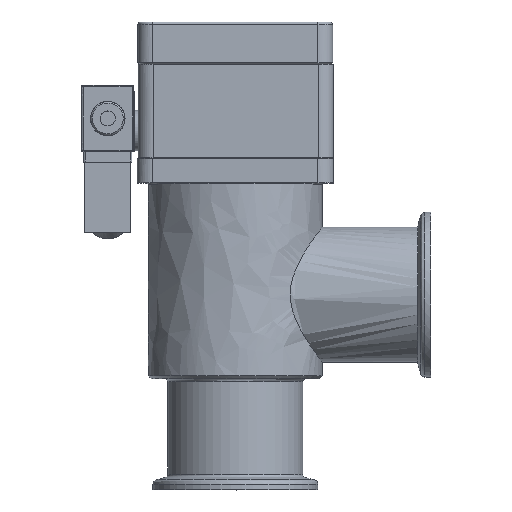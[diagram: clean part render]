
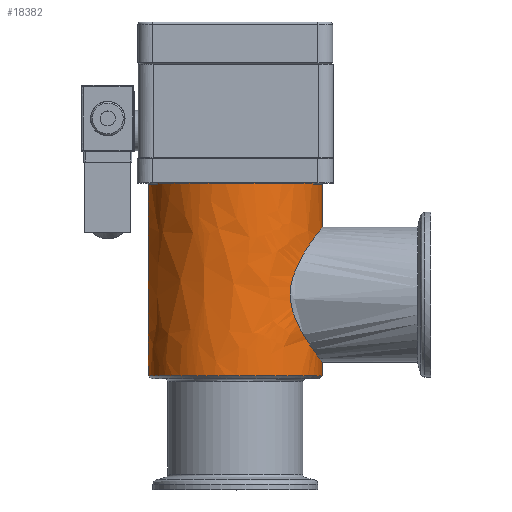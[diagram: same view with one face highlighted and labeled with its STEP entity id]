
A CAD part, top view. The second image highlights one B-rep face of the part: STEP entity #18382.
In plain terms, the highlighted free-form (B-spline) face has degree [2, 1] with [7, 2] control points.
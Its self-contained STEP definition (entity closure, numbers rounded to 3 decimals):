
#17695=CARTESIAN_POINT('V34',(38.,28.95,
   0.0));
#17696=VERTEX_POINT('V34',#17695);
#17704=CARTESIAN_POINT('E59',(38.,28.95,
   0.));
#17705=CARTESIAN_POINT('E59',(38.,28.95,
   50.143));
#17706=CARTESIAN_POINT('E59',(38.,-14.475,
   25.071));
#17707=CARTESIAN_POINT('E59',(38.,-57.9,
   0.));
#17708=CARTESIAN_POINT('E59',(38.,-14.475,
   -25.071));
#17709=CARTESIAN_POINT('E59',(38.,28.95,
   -50.143));
#17710=CARTESIAN_POINT('E59',(38.,28.95,
   0.));
#17718=(BOUNDED_CURVE()B_SPLINE_CURVE(2,(#17704,#17705,#17706,
   #17707,#17708,#17709,#17710),.CIRCULAR_ARC.,.T.,.U.)
   B_SPLINE_CURVE_WITH_KNOTS((3,2,2,3),(2.0,43.393,
   84.786,126.179),.UNSPECIFIED.)CURVE()
   GEOMETRIC_REPRESENTATION_ITEM()RATIONAL_B_SPLINE_CURVE((1.0,
   0.5,1.0,0.5,1.0,0.5,1.0)
   )REPRESENTATION_ITEM('E59'));
#17719=EDGE_CURVE('E59',#17696,#17696,#17718,.T.);
#18256=CARTESIAN_POINT('V17',(102.,28.95,
   0.0));
#18257=VERTEX_POINT('V17',#18256);
#18265=CARTESIAN_POINT('E27',(102.,28.95,
   0.0));
#18266=CARTESIAN_POINT('E27',(102.0,28.95,
   -50.143));
#18267=CARTESIAN_POINT('E27',(102.,
   -14.475,-25.071));
#18268=CARTESIAN_POINT('E27',(102.0,-57.9,
   0.));
#18269=CARTESIAN_POINT('E27',(102.,
   -14.475,25.071));
#18270=CARTESIAN_POINT('E27',(102.0,28.95,
   50.143));
#18271=CARTESIAN_POINT('E27',(102.,28.95,
   0.0));
#18279=(BOUNDED_CURVE()B_SPLINE_CURVE(2,(#18265,#18266,#18267,
   #18268,#18269,#18270,#18271),.CIRCULAR_ARC.,.T.,.U.)
   B_SPLINE_CURVE_WITH_KNOTS((3,2,2,3),(0.0,355.788,
   711.577,1067.365),.UNSPECIFIED.)CURVE()
   GEOMETRIC_REPRESENTATION_ITEM()RATIONAL_B_SPLINE_CURVE((1.0,
   0.5,1.0,0.5,1.0,0.5,1.0)
   )REPRESENTATION_ITEM('E27'));
#18280=EDGE_CURVE('E27',#18257,#18257,#18279,.T.);
#18285=CARTESIAN_POINT('F27',(37.,28.95,
   0.0));
#18286=CARTESIAN_POINT('F27',(37.,28.95,
   50.143));
#18287=CARTESIAN_POINT('F27',(37.,-14.475,
   25.071));
#18288=CARTESIAN_POINT('F27',(37.,-57.9,
   0.));
#18289=CARTESIAN_POINT('F27',(37.,-14.475,
   -25.071));
#18290=CARTESIAN_POINT('F27',(37.,28.95,
   -50.143));
#18291=CARTESIAN_POINT('F27',(37.,28.95,
   0.0));
#18292=CARTESIAN_POINT('F27',(102.,28.95,
   0.0));
#18293=CARTESIAN_POINT('F27',(102.0,28.95,
   50.143));
#18294=CARTESIAN_POINT('F27',(102.,
   -14.475,25.071));
#18295=CARTESIAN_POINT('F27',(102.0,-57.9,
   0.));
#18296=CARTESIAN_POINT('F27',(102.,
   -14.475,-25.071));
#18297=CARTESIAN_POINT('F27',(102.0,28.95,
   -50.143));
#18298=CARTESIAN_POINT('F27',(102.,28.95,
   0.0));
#18306=(BOUNDED_SURFACE()B_SPLINE_SURFACE(2,1,((#18285,#18292),(
   #18286,#18293),(#18287,#18294),(#18288,#18295),(#18289,
   #18296),(#18290,#18297),(#18291,#18298)),.CYLINDRICAL_SURF.,
   .T.,.F.,.U.)B_SPLINE_SURFACE_WITH_KNOTS((3,2,2,3),(2,2),(0.0,
   1.543,3.086,4.629),(0.0,1.0),
   .UNSPECIFIED.)GEOMETRIC_REPRESENTATION_ITEM()
   RATIONAL_B_SPLINE_SURFACE(((1.0,1.0),(0.5,
   0.5),(1.0,1.0),(0.5,
   0.5),(1.0,1.0),(0.5,
   0.5),(1.0,1.0)))REPRESENTATION_ITEM('F27')SURFACE(
   ));
#18307=ORIENTED_EDGE('E59',*,*,#17719,.F.);
#18308=CARTESIAN_POINT('V32',(45.,28.95,
   0.0));
#18309=VERTEX_POINT('V32',#18308);
#18310=CARTESIAN_POINT('E52',(45.,28.95,
   0.0));
#18311=CARTESIAN_POINT('E52',(38.,28.95,
   0.0));
#18312=B_SPLINE_CURVE_WITH_KNOTS('E52',1,(#18310,#18311),
   .POLYLINE_FORM.,.F.,.U.,(2,2),(0.877,
   0.985),.UNSPECIFIED.);
#18313=EDGE_CURVE('E52',#18309,#17696,#18312,.T.);
#18314=ORIENTED_EDGE('E52',*,*,#18313,.F.);
#18315=CARTESIAN_POINT('V31',(65.0,20.931,
   20.));
#18316=VERTEX_POINT('V31',#18315);
#18317=CARTESIAN_POINT('E51',(65.0,20.931,
   20.));
#18318=CARTESIAN_POINT('E51',(64.201,20.931,
   20.));
#18319=CARTESIAN_POINT('E51',(63.408,20.977,
   19.952));
#18320=CARTESIAN_POINT('E51',(59.932,21.369,
   19.536));
#18321=CARTESIAN_POINT('E51',(57.478,22.158,
   18.689));
#18322=CARTESIAN_POINT('E51',(53.132,23.977,
   16.297));
#18323=CARTESIAN_POINT('E51',(51.059,25.111,
   14.603));
#18324=CARTESIAN_POINT('E51',(47.714,27.115,
   10.395));
#18325=CARTESIAN_POINT('E51',(46.315,28.052,
   7.802));
#18326=CARTESIAN_POINT('E51',(45.192,28.816,
   3.188));
#18327=CARTESIAN_POINT('E51',(45.,28.95,
   1.603));
#18328=CARTESIAN_POINT('E51',(45.,28.95,
   0.0));
#18329=B_SPLINE_CURVE_WITH_KNOTS('E51',3,(#18317,#18318,#18319,
   #18320,#18321,#18322,#18323,#18324,#18325,#18326,#18327,#18328),
   .UNSPECIFIED.,.F.,.U.,(4,2,2,2,2,4),(0.0,0.076,
   0.337,0.61,0.87,1.0),
   .UNSPECIFIED.);
#18330=EDGE_CURVE('E51',#18316,#18309,#18329,.T.);
#18331=ORIENTED_EDGE('E51',*,*,#18330,.F.);
#18332=CARTESIAN_POINT('V33',(85.0,28.95,0.0));
#18333=VERTEX_POINT('V33',#18332);
#18334=CARTESIAN_POINT('E55',(85.,28.95,
   0.0));
#18335=CARTESIAN_POINT('E55',(85.,28.95,
   1.628));
#18336=CARTESIAN_POINT('E55',(84.802,28.812,
   3.236));
#18337=CARTESIAN_POINT('E55',(84.055,28.304,
   6.261));
#18338=CARTESIAN_POINT('E55',(83.534,27.953,
   7.658));
#18339=CARTESIAN_POINT('E55',(81.427,26.585,
   11.857));
#18340=CARTESIAN_POINT('E55',(79.397,25.33,
   14.167));
#18341=CARTESIAN_POINT('E55',(74.753,22.998,
   17.721));
#18342=CARTESIAN_POINT('E55',(71.917,21.837,
   19.025));
#18343=CARTESIAN_POINT('E55',(67.587,21.054,
   19.874));
#18344=CARTESIAN_POINT('E55',(66.303,20.931,
   20.));
#18345=CARTESIAN_POINT('E55',(65.0,20.931,
   20.));
#18346=B_SPLINE_CURVE_WITH_KNOTS('E55',3,(#18334,#18335,#18336,
   #18337,#18338,#18339,#18340,#18341,#18342,#18343,#18344,#18345),
   .UNSPECIFIED.,.F.,.U.,(4,2,2,2,2,4),(0.0,0.14,
   0.272,0.561,0.872,1.0),
   .UNSPECIFIED.);
#18347=EDGE_CURVE('E55',#18333,#18316,#18346,.T.);
#18348=ORIENTED_EDGE('E55',*,*,#18347,.F.);
#18349=CARTESIAN_POINT('E54',(102.,28.95,
   0.0));
#18350=CARTESIAN_POINT('E54',(85.,28.95,
   0.0));
#18351=B_SPLINE_CURVE_WITH_KNOTS('E54',1,(#18349,#18350),
   .POLYLINE_FORM.,.F.,.U.,(2,2),(0.0,0.262),
   .UNSPECIFIED.);
#18352=EDGE_CURVE('E54',#18257,#18333,#18351,.T.);
#18353=ORIENTED_EDGE('E54',*,*,#18352,.F.);
#18354=ORIENTED_EDGE('F15',*,*,#18280,.F.);
#18355=ORIENTED_EDGE('E54',*,*,#18352,.T.);
#18356=CARTESIAN_POINT('E53',(45.,28.95,
   0.0));
#18357=CARTESIAN_POINT('E53',(45.,28.95,
   -1.87));
#18358=CARTESIAN_POINT('E53',(45.261,28.768,
   -3.714));
#18359=CARTESIAN_POINT('E53',(46.097,28.202,
   -6.643));
#18360=CARTESIAN_POINT('E53',(46.526,27.915,
   -7.752));
#18361=CARTESIAN_POINT('E53',(48.505,26.626,
   -11.788));
#18362=CARTESIAN_POINT('E53',(50.587,25.336,
   -14.162));
#18363=CARTESIAN_POINT('E53',(55.379,22.935,
   -17.813));
#18364=CARTESIAN_POINT('E53',(58.355,21.727,
   -19.147));
#18365=CARTESIAN_POINT('E53',(63.018,20.977,
   -19.954));
#18366=CARTESIAN_POINT('E53',(64.465,20.887,
   -20.047));
#18367=CARTESIAN_POINT('E53',(68.889,21.083,
   -19.841));
#18368=CARTESIAN_POINT('E53',(71.524,21.831,
   -19.062));
#18369=CARTESIAN_POINT('E53',(76.721,23.828,
   -16.547));
#18370=CARTESIAN_POINT('E53',(79.516,25.419,
   -14.257));
#18371=CARTESIAN_POINT('E53',(82.806,27.464,
   -9.36));
#18372=CARTESIAN_POINT('E53',(83.831,28.151,
   -7.205));
#18373=CARTESIAN_POINT('E53',(84.808,28.816,
   -3.188));
#18374=CARTESIAN_POINT('E53',(85.,28.95,
   -1.603));
#18375=CARTESIAN_POINT('E53',(85.,28.95,
   0.0));
#18376=B_SPLINE_CURVE_WITH_KNOTS('E53',3,(#18356,#18357,#18358,
   #18359,#18360,#18361,#18362,#18363,#18364,#18365,#18366,#18367,
   #18368,#18369,#18370,#18371,#18372,#18373,#18374,#18375),
   .UNSPECIFIED.,.F.,.U.,(4,2,2,2,2,2,2,2,2,4),(0.0,
   0.077,0.128,0.27,
   0.425,0.493,0.631,
   0.821,0.932,1.0),.UNSPECIFIED.);
#18377=EDGE_CURVE('E53',#18309,#18333,#18376,.T.);
#18378=ORIENTED_EDGE('E53',*,*,#18377,.F.);
#18379=ORIENTED_EDGE('E52',*,*,#18313,.T.);
#18380=EDGE_LOOP('F27',(#18307,#18314,#18331,#18348,#18353,#18354,
   #18355,#18378,#18379));
#18381=FACE_OUTER_BOUND('F27',#18380,.F.);
#18382=ADVANCED_FACE('F27',(#18381),#18306,.T.);
